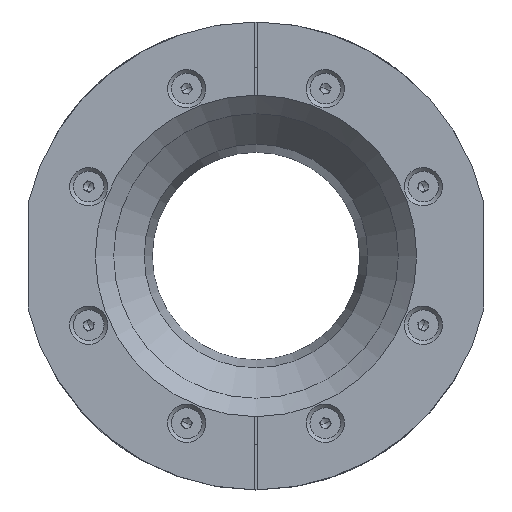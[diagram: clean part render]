
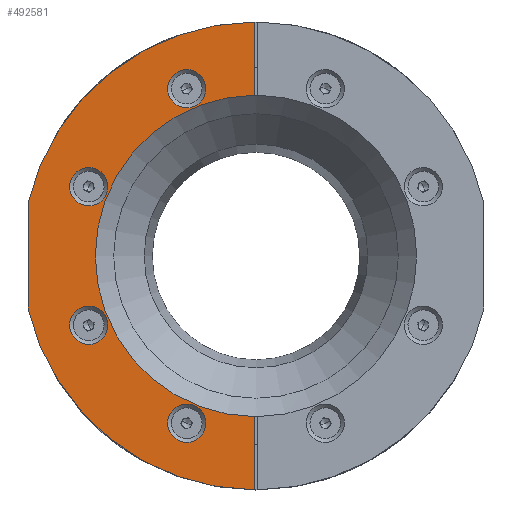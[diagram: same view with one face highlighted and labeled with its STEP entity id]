
A CAD part, top view. The second image highlights one B-rep face of the part: STEP entity #492581.
In plain terms, the highlighted planar face has unit normal (0, 0, 1).
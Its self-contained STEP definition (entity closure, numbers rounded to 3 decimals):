
#6681 = DIRECTION ( 'NONE',  ( 0., 0., -1. ) ) ;
#13430 = CIRCLE ( 'NONE', #119975, 4.7 ) ;
#14607 = CIRCLE ( 'NONE', #351090, 4.7 ) ;
#14984 = CIRCLE ( 'NONE', #112451, 39.5 ) ;
#18563 = EDGE_LOOP ( 'NONE', ( #351481, #515600, #417561, #480317, #41403, #31458 ) ) ;
#20724 = CARTESIAN_POINT ( 'NONE',  ( -56., 13.048, 14.1 ) ) ;
#20788 = CARTESIAN_POINT ( 'NONE',  ( -17.029, 36.413, 14.1 ) ) ;
#30191 = CARTESIAN_POINT ( 'NONE',  ( -56., -13.048, 14.1 ) ) ;
#31458 = ORIENTED_EDGE ( 'NONE', *, *, #405091, .F. ) ;
#32465 = FACE_OUTER_BOUND ( 'NONE', #18563, .T. ) ;
#33372 = VERTEX_POINT ( 'NONE', #117554 ) ;
#37135 = VERTEX_POINT ( 'NONE', #325713 ) ;
#41403 = ORIENTED_EDGE ( 'NONE', *, *, #79712, .F. ) ;
#62645 = DIRECTION ( 'NONE',  ( 0., -1., 0. ) ) ;
#65908 = FACE_BOUND ( 'NONE', #218066, .T. ) ;
#68629 = PLANE ( 'NONE',  #112470 ) ;
#72735 = CIRCLE ( 'NONE', #391345, 4.7 ) ;
#77334 = DIRECTION ( 'NONE',  ( 0., -1., 0. ) ) ;
#79712 = EDGE_CURVE ( 'NONE', #447125, #110004, #170633, .T. ) ;
#81055 = LINE ( 'NONE', #297258, #259465 ) ;
#93036 = CARTESIAN_POINT ( 'NONE',  ( -0.25, 57.499, 14.1 ) ) ;
#95215 = CARTESIAN_POINT ( 'NONE',  ( -17.029, -41.113, 14.1 ) ) ;
#110004 = VERTEX_POINT ( 'NONE', #93036 ) ;
#112451 = AXIS2_PLACEMENT_3D ( 'NONE', #314483, #272819, #156269 ) ;
#112470 = AXIS2_PLACEMENT_3D ( 'NONE', #318275, #118434, #276612 ) ;
#117554 = CARTESIAN_POINT ( 'NONE',  ( -0.25, 39.499, 14.1 ) ) ;
#118434 = DIRECTION ( 'NONE',  ( 0., 0., -1. ) ) ;
#119975 = AXIS2_PLACEMENT_3D ( 'NONE', #273328, #234461, #62645 ) ;
#135659 = EDGE_CURVE ( 'NONE', #359514, #259848, #330695, .T. ) ;
#137799 = EDGE_CURVE ( 'NONE', #481087, #481087, #380567, .T. ) ;
#153814 = VERTEX_POINT ( 'NONE', #436707 ) ;
#156269 = DIRECTION ( 'NONE',  ( 1., 0., 0. ) ) ;
#166270 = DIRECTION ( 'NONE',  ( 0., 0., -1. ) ) ;
#170633 = CIRCLE ( 'NONE', #480534, 57.5 ) ;
#173228 = VECTOR ( 'NONE', #236722, 1000. ) ;
#174761 = EDGE_CURVE ( 'NONE', #439478, #439478, #13430, .T. ) ;
#177240 = VECTOR ( 'NONE', #272542, 1000. ) ;
#179818 = EDGE_CURVE ( 'NONE', #153814, #153814, #14607, .T. ) ;
#179919 = CARTESIAN_POINT ( 'NONE',  ( -0.25, -57.499, 14.1 ) ) ;
#180845 = EDGE_CURVE ( 'NONE', #33372, #281053, #14984, .T. ) ;
#191495 = CARTESIAN_POINT ( 'NONE',  ( -0.25, -39.499, 14.1 ) ) ;
#195548 = DIRECTION ( 'NONE',  ( 0., -1., 0. ) ) ;
#218066 = EDGE_LOOP ( 'NONE', ( #484317 ) ) ;
#222732 = DIRECTION ( 'NONE',  ( 0., -1., 0. ) ) ;
#231669 = DIRECTION ( 'NONE',  ( 0., 0., 1. ) ) ;
#232301 = FACE_BOUND ( 'NONE', #373658, .T. ) ;
#234461 = DIRECTION ( 'NONE',  ( 0., 0., 1. ) ) ;
#236722 = DIRECTION ( 'NONE',  ( 0., 1., 0. ) ) ;
#237098 = CARTESIAN_POINT ( 'NONE',  ( -17.029, 41.113, 14.1 ) ) ;
#244729 = DIRECTION ( 'NONE',  ( 0., -1., 0. ) ) ;
#246435 = ORIENTED_EDGE ( 'NONE', *, *, #454909, .F. ) ;
#249427 = CARTESIAN_POINT ( 'NONE',  ( 0., 0., 14.1 ) ) ;
#259465 = VECTOR ( 'NONE', #244729, 1000. ) ;
#259848 = VERTEX_POINT ( 'NONE', #30191 ) ;
#264309 = DIRECTION ( 'NONE',  ( 0., 0., 1. ) ) ;
#272542 = DIRECTION ( 'NONE',  ( 0., -1., 0. ) ) ;
#272819 = DIRECTION ( 'NONE',  ( 0., 0., 1. ) ) ;
#273328 = CARTESIAN_POINT ( 'NONE',  ( -41.113, -17.029, 14.1 ) ) ;
#276612 = DIRECTION ( 'NONE',  ( 1., 0., 0. ) ) ;
#278334 = LINE ( 'NONE', #372505, #173228 ) ;
#281053 = VERTEX_POINT ( 'NONE', #191495 ) ;
#293005 = CARTESIAN_POINT ( 'NONE',  ( -0.25, -64.717, 14.1 ) ) ;
#297258 = CARTESIAN_POINT ( 'NONE',  ( -0.25, -64.717, 14.1 ) ) ;
#314483 = CARTESIAN_POINT ( 'NONE',  ( 0., 0., 14.1 ) ) ;
#318275 = CARTESIAN_POINT ( 'NONE',  ( 0., -39.5, 14.1 ) ) ;
#321007 = FACE_BOUND ( 'NONE', #323479, .T. ) ;
#323479 = EDGE_LOOP ( 'NONE', ( #409755 ) ) ;
#325713 = CARTESIAN_POINT ( 'NONE',  ( -41.113, 12.329, 14.1 ) ) ;
#330695 = CIRCLE ( 'NONE', #480975, 57.5 ) ;
#351090 = AXIS2_PLACEMENT_3D ( 'NONE', #95215, #264309, #222732 ) ;
#351481 = ORIENTED_EDGE ( 'NONE', *, *, #135659, .F. ) ;
#359514 = VERTEX_POINT ( 'NONE', #179919 ) ;
#372505 = CARTESIAN_POINT ( 'NONE',  ( -56., 57.5, 14.1 ) ) ;
#373658 = EDGE_LOOP ( 'NONE', ( #508761 ) ) ;
#380567 = CIRCLE ( 'NONE', #513502, 4.7 ) ;
#382632 = EDGE_LOOP ( 'NONE', ( #246435 ) ) ;
#383882 = CARTESIAN_POINT ( 'NONE',  ( 0., 0., 14.1 ) ) ;
#391345 = AXIS2_PLACEMENT_3D ( 'NONE', #543090, #412814, #77334 ) ;
#394222 = EDGE_CURVE ( 'NONE', #110004, #33372, #81055, .T. ) ;
#405091 = EDGE_CURVE ( 'NONE', #259848, #447125, #278334, .T. ) ;
#406088 = CARTESIAN_POINT ( 'NONE',  ( -41.113, -21.729, 14.1 ) ) ;
#409755 = ORIENTED_EDGE ( 'NONE', *, *, #174761, .F. ) ;
#412814 = DIRECTION ( 'NONE',  ( 0., 0., 1. ) ) ;
#417561 = ORIENTED_EDGE ( 'NONE', *, *, #180845, .F. ) ;
#418526 = DIRECTION ( 'NONE',  ( 1., 0., 0. ) ) ;
#422677 = DIRECTION ( 'NONE',  ( 1., 0., 0. ) ) ;
#436707 = CARTESIAN_POINT ( 'NONE',  ( -17.029, -45.813, 14.1 ) ) ;
#439478 = VERTEX_POINT ( 'NONE', #406088 ) ;
#447125 = VERTEX_POINT ( 'NONE', #20724 ) ;
#454909 = EDGE_CURVE ( 'NONE', #37135, #37135, #72735, .T. ) ;
#480317 = ORIENTED_EDGE ( 'NONE', *, *, #394222, .F. ) ;
#480534 = AXIS2_PLACEMENT_3D ( 'NONE', #383882, #6681, #422677 ) ;
#480975 = AXIS2_PLACEMENT_3D ( 'NONE', #249427, #166270, #418526 ) ;
#481087 = VERTEX_POINT ( 'NONE', #20788 ) ;
#484317 = ORIENTED_EDGE ( 'NONE', *, *, #179818, .F. ) ;
#487347 = FACE_BOUND ( 'NONE', #382632, .T. ) ;
#492581 = ADVANCED_FACE ( 'NONE', ( #65908, #321007, #232301, #487347, #32465 ), #68629, .F. ) ;
#508761 = ORIENTED_EDGE ( 'NONE', *, *, #137799, .F. ) ;
#513502 = AXIS2_PLACEMENT_3D ( 'NONE', #237098, #231669, #195548 ) ;
#515028 = EDGE_CURVE ( 'NONE', #281053, #359514, #542591, .T. ) ;
#515600 = ORIENTED_EDGE ( 'NONE', *, *, #515028, .F. ) ;
#542591 = LINE ( 'NONE', #293005, #177240 ) ;
#543090 = CARTESIAN_POINT ( 'NONE',  ( -41.113, 17.029, 14.1 ) ) ;
